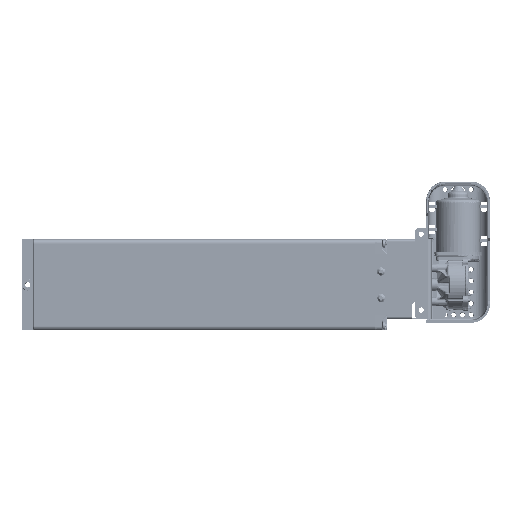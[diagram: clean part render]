
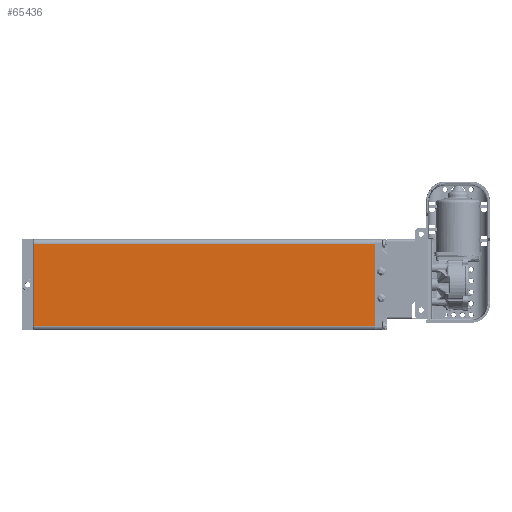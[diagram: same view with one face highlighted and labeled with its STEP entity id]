
A CAD part, top view. The second image highlights one B-rep face of the part: STEP entity #65436.
In plain terms, the highlighted planar face has unit normal (0, 0, 1).
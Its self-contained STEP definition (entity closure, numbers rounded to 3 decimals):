
#5890=LINE('',#112882,#8603);
#5891=LINE('',#112885,#8604);
#5892=LINE('',#112887,#8605);
#5893=LINE('',#112889,#8606);
#8603=VECTOR('',#76274,1000.);
#8604=VECTOR('',#76275,1000.);
#8605=VECTOR('',#76276,1000.);
#8606=VECTOR('',#76277,1000.);
#10705=PLANE('',#69290);
#15848=ORIENTED_EDGE('',*,*,#29684,.T.);
#15849=ORIENTED_EDGE('',*,*,#29685,.T.);
#15850=ORIENTED_EDGE('',*,*,#29686,.T.);
#15851=ORIENTED_EDGE('',*,*,#29687,.T.);
#29684=EDGE_CURVE('',#36829,#36830,#5890,.F.);
#29685=EDGE_CURVE('',#36830,#36831,#5891,.T.);
#29686=EDGE_CURVE('',#36831,#36832,#5892,.T.);
#29687=EDGE_CURVE('',#36832,#36829,#5893,.F.);
#36829=VERTEX_POINT('',#112883);
#36830=VERTEX_POINT('',#112884);
#36831=VERTEX_POINT('',#112886);
#36832=VERTEX_POINT('',#112888);
#43756=EDGE_LOOP('',(#15848,#15849,#15850,#15851));
#47752=FACE_BOUND('',#43756,.T.);
#65436=ADVANCED_FACE('',(#47752),#10705,.T.);
#69290=AXIS2_PLACEMENT_3D('',#112881,#76272,#76273);
#76272=DIRECTION('',(0.,0.,1.));
#76273=DIRECTION('',(1.,0.,0.));
#76274=DIRECTION('',(0.,-1.,0.));
#76275=DIRECTION('',(-1.,0.,0.));
#76276=DIRECTION('',(0.,-1.,0.));
#76277=DIRECTION('',(-1.,0.,0.));
#112881=CARTESIAN_POINT('',(60.,450.5,30.));
#112882=CARTESIAN_POINT('',(54.,450.5,30.));
#112883=CARTESIAN_POINT('',(54.,0.5,30.));
#112884=CARTESIAN_POINT('',(54.,450.,30.));
#112885=CARTESIAN_POINT('',(60.,450.,30.));
#112886=CARTESIAN_POINT('',(-54.,450.,30.));
#112887=CARTESIAN_POINT('',(-54.,450.5,30.));
#112888=CARTESIAN_POINT('',(-54.,0.5,30.));
#112889=CARTESIAN_POINT('',(54.,0.5,30.));
